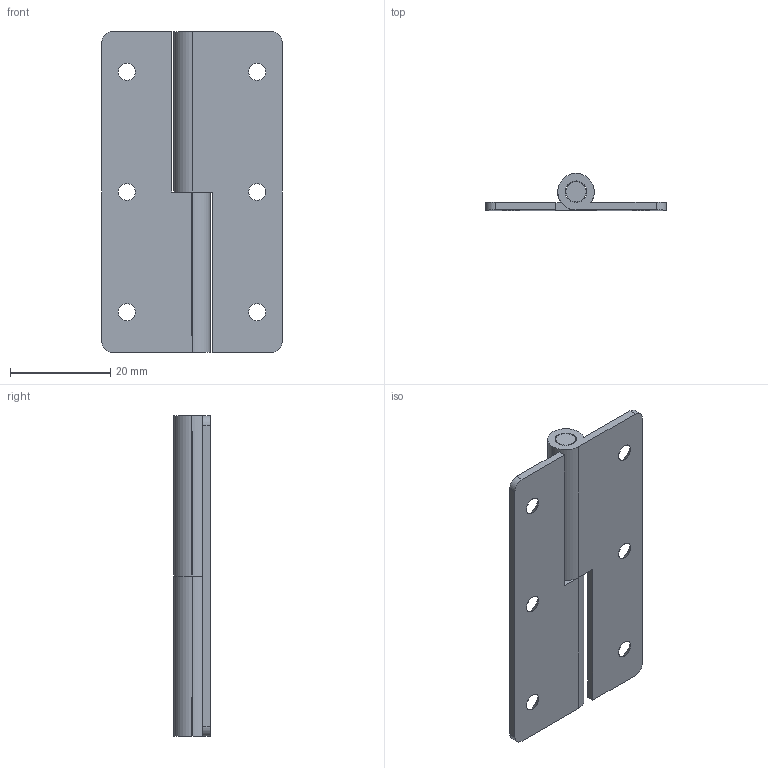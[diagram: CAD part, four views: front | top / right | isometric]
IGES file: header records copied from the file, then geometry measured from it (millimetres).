
Global section: file name: No Iges File Name specified; native system: AutoDesk Inventor R11.0; preprocessor: AutoDesk Inventor Iges Exporter R11.0; author: No Author specified; organization: No Organization specified; date: 20130722.151027; units: millimetre
Bounding box: 36 x 7.3 x 64 mm (x, y, z)
Surface area: 105677.1 mm2 (no closed solid volume)
Topology: 0 solids, 0 shells, 57 faces, 283 edges, 280 vertices
Faces by surface type: revolution 40, plane 15, bspline 2
